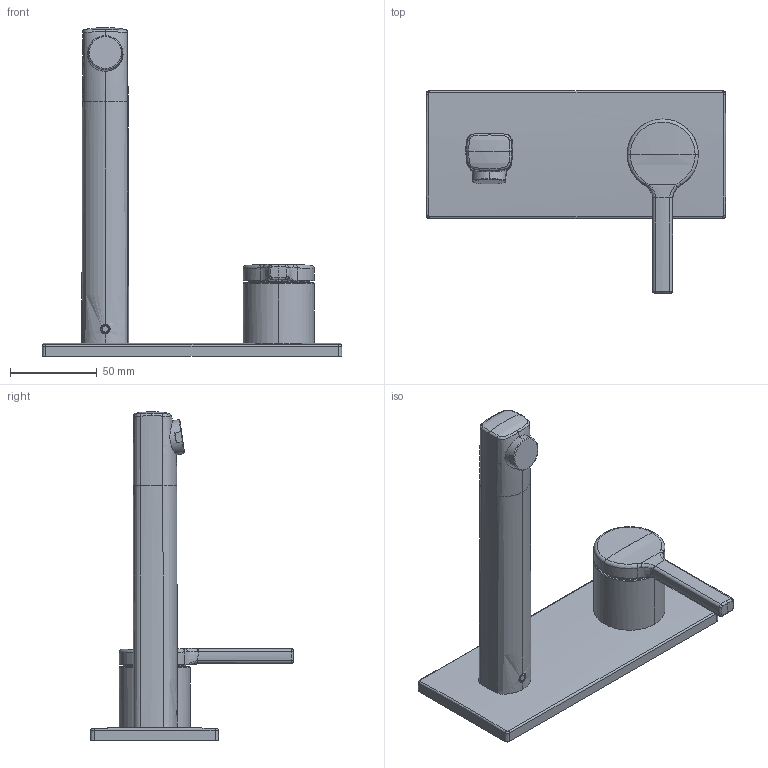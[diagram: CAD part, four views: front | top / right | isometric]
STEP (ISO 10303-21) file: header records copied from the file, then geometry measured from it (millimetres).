
FILE_DESCRIPTION((''),'2;1');
FILE_NAME('AVA_2_0_A175','2020-07-30T14:06:38',('DB991'),(''),'CREO PARAMETRIC BY PTC INC, 2018500','CREO PARAMETRIC BY PTC INC, 2018500','');
FILE_SCHEMA(('CONFIG_CONTROL_DESIGN'));
Products named in the file (1): AVA_2_0_A175
Bounding box: 172.84 x 116.92 x 189.4 mm (x, y, z)
Volume: 264012.5 mm3; surface area: 54992 mm2
Topology: 1 solids, 1 shells, 179 faces, 436 edges, 263 vertices
Faces by surface type: bspline 71, plane 42, cylinder 35, torus 12, cone 11, sphere 6, extrusion 2
Entity records: 31176 total; most frequent: CARTESIAN_POINT 27599, ORIENTED_EDGE 862, DIRECTION 534, EDGE_CURVE 431, VERTEX_POINT 263, B_SPLINE_CURVE_WITH_KNOTS 221, AXIS2_PLACEMENT_3D 214, EDGE_LOOP 188
